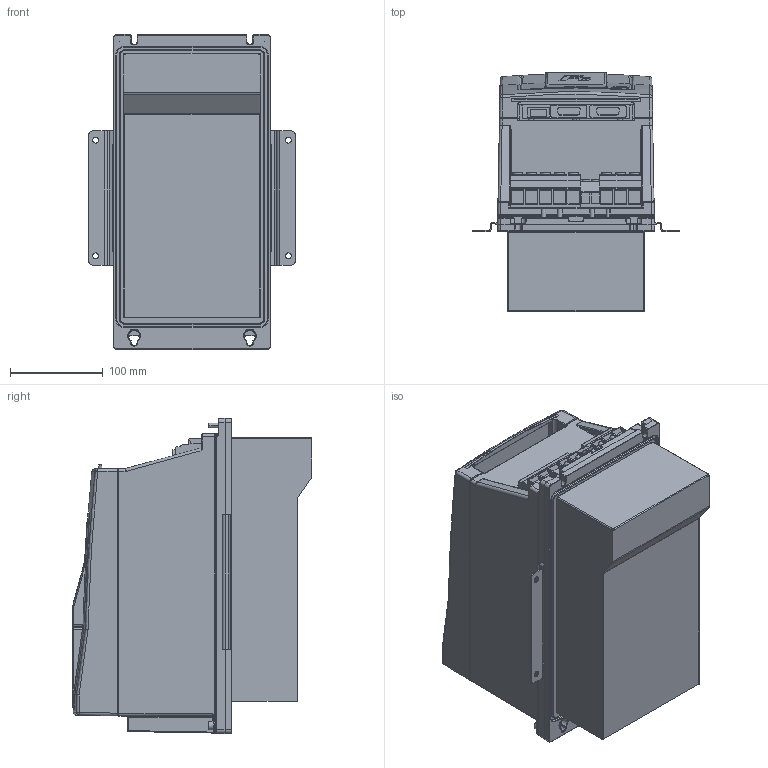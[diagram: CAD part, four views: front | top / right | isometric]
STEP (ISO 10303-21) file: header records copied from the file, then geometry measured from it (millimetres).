
FILE_DESCRIPTION (( 'STEP AP214' ), '1' );
FILE_NAME ('Housing F6-3 TR5-P050.STEP', '2020-11-12T10:12:58', ( '' ), ( '' ), 'SwSTEP 2.0', 'SolidWorks 2019', '' );
FILE_SCHEMA (( 'AUTOMOTIVE_DESIGN' ));
Length unit declared in the file: millimetre
Products named in the file (9): 10051470_000_Leistungsteil TR5 (Kundenmodell); 10059762_000_Kundenmodell mit Geberbuchsen; 10040482_000_Kundenmodell; 10060358_000; 10059765_000; Housing F6-3 TR5-P050; 10060393_000; 10051076_000_Kundenmodell; 10059764_000_Blindabdeckung (Kundenmodell)
Assembly tree (8 placements, depth 4):
  Housing F6-3 TR5-P050
    10051470_000_Leistungsteil TR5 (Kundenmodell)
      10060358_000
    10040482_000_Kundenmodell
      10060393_000
    10051076_000_Kundenmodell
      10059764_000_Blindabdeckung (Kundenmodell)
        10059765_000
      10059762_000_Kundenmodell mit Geberbuchsen
Bounding box: 223 x 258.4 x 340 mm (x, y, z)
Volume: 10541649.5 mm3; surface area: 630017.2 mm2
Topology: 11 solids, 14 shells, 1892 faces, 4789 edges, 2934 vertices
Faces by surface type: plane 793, cylinder 567, bspline 315, torus 90, cone 77, sphere 50
Entity records: 63826 total; most frequent: CARTESIAN_POINT 20899, ORIENTED_EDGE 9450, DIRECTION 8182, EDGE_CURVE 4725, VERTEX_POINT 2934, AXIS2_PLACEMENT_3D 2823, LINE 2536, VECTOR 2536
